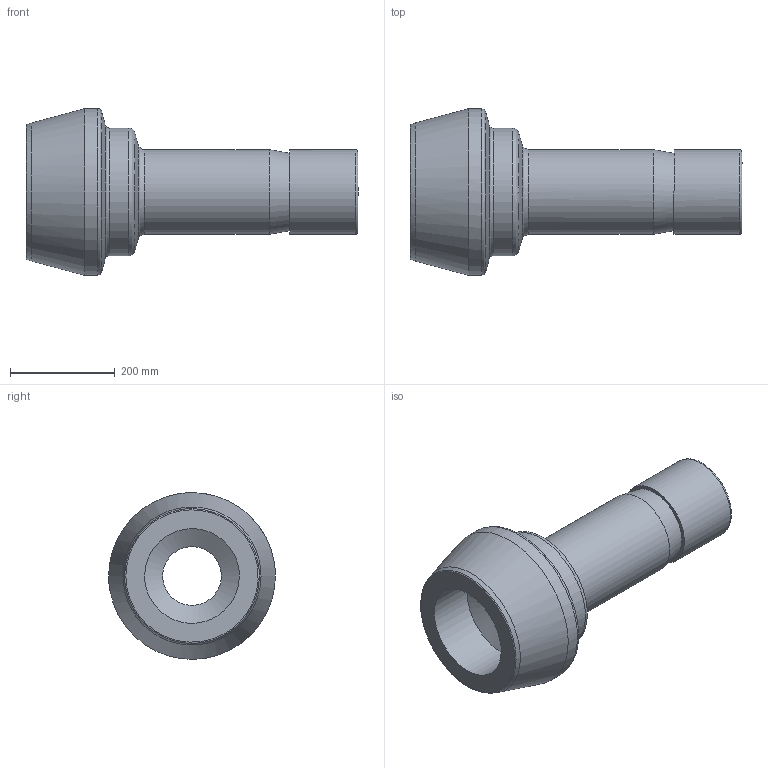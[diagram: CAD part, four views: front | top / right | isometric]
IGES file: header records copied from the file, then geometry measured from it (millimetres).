
Global section: file name: SRPC-6-4; native system: Autodesk Inventor 2016; preprocessor: unknown; author: DESIGNPC2; date: 20151219.133413; units: millimetre
Bounding box: 632.46 x 317.5 x 317.48 mm (x, y, z)
Volume: 13830948.5 mm3; surface area: 731135.3 mm2
Topology: 1 solids, 1 shells, 21 faces, 70 edges, 52 vertices
Faces by surface type: bspline 21
